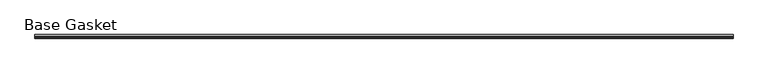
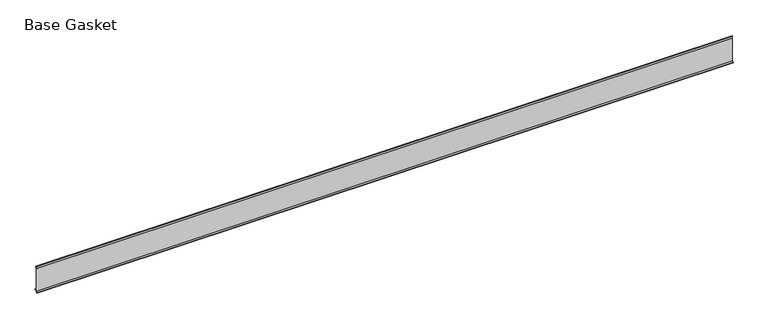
"""IFC4 building model written with IfcOpenShell, lengths in millimetres: furniture geometry, Gasket-Teknion-FHGB-AI_Healthcare-R2021 : Base Gasket."""

from ifc_helpers import new_model, si_unit, frame, origin, place, context, project, spatial, polyline, outline, extrude, source, transform, mapped, element, save


def base_gasket_5e9fda6b(model_context):
    return source(origin(), model_context, "Body", "SweptSolid", [
        extrude(outline(polyline([(-3.7283812, 98.4568417), (-1.1891543, 104.587663), (-0.6755308, 105.2002997), (-0.6755308, 104.4162708), (-2.2043812, 98.4568417), (-2.2043812, 96.8693477), (-1.4106313, 96.8693477), (-1.4106313, 71.4693447), (-2.2043812, 71.4693447), (-2.2043812, 7.9398773), (6.2405171, 7.9398773), (6.2405171, 6.3818476), (-2.1334222, 6.3818476), (-2.2043812, 4.3498477), (-6.8281054, 0.3520979), (-7.8482342, 0.0), (-7.4222115, 0.6560174), (-3.7283812, 4.3498477), (-3.7283812, 98.4568417)])), frame((-1527.8982117, 0.0, 0.0), z_axis=(1.0, 0.0, 0.0), x_axis=(0.0, 1.0, 0.0)), (0.0, 0.0, 1.0), 2711.5277244),
    ])


if __name__ == "__main__":
    model = new_model("IFC4")
    model_context = context("Model", 3, world=origin())
    ifc_project = project(units=[si_unit("LENGTHUNIT", "METRE", prefix="MILLI")], contexts=[model_context])
    site = spatial("IfcSite", under=ifc_project)
    building = spatial("IfcBuilding", under=site)
    placement = place(None, origin())
    base_gasket_shape = base_gasket_5e9fda6b(model_context)
    element("IfcFurniture", 1, ObjectType="Gasket-Teknion-FHGB-AI_Healthcare-R2021 : Base Gasket", at=placement, inside=building, context=model_context, shape_type="MappedRepresentation", body=[
        mapped(base_gasket_shape, transform((0.0, 0.0, 0.0), x_axis=(1.0, 0.0, 0.0), y_axis=(0.0, 1.0, 0.0), z_axis=(0.0, 0.0, 1.0))),
    ])
    save(model, "model.ifc")
